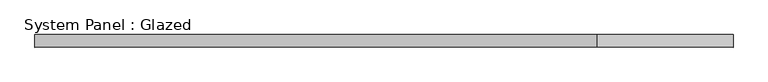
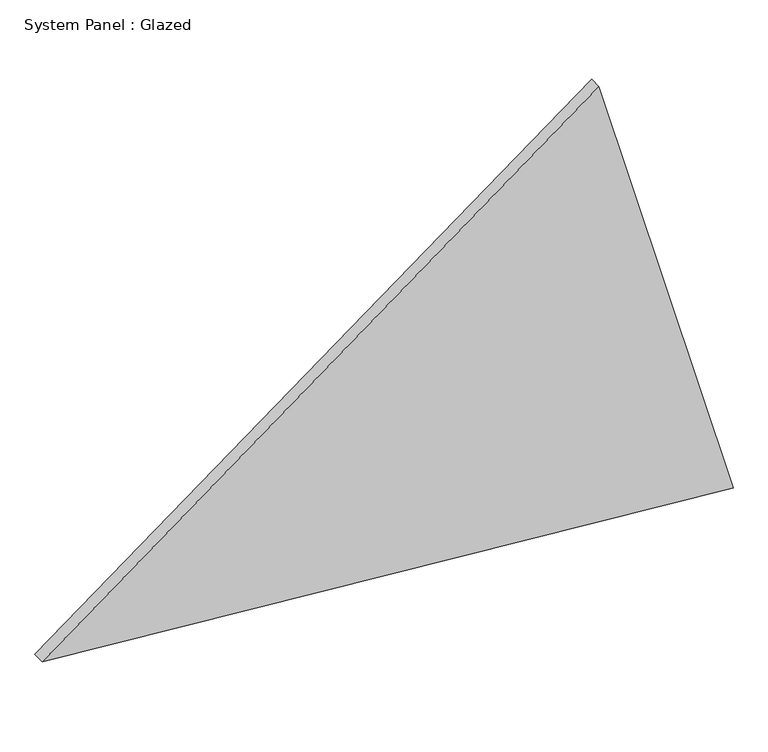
"""IFC4 building model written with IfcOpenShell, lengths in millimetres: plate geometry, System Panel : Glazed."""

from ifc_helpers import new_model, si_unit, frame, origin, place, context, project, spatial, polyline, outline, extrude, source, transform, mapped, element, save


def system_panel_glazed_a26e994d(model_context):
    return source(origin(), model_context, "Body", "SweptSolid", [
        extrude(outline(polyline([(117.8206661, -696.3766952), (0.0, 696.3766952), (951.2966006, 425.6578776), (117.8206661, -696.3766952)])), frame((0.0, -49.5, 0.0), z_axis=(0.0, 1.0, 0.0), x_axis=(0.0, 0.0, 1.0)), (0.0, 0.0, 1.0), 25.0),
    ])


if __name__ == "__main__":
    model = new_model("IFC4")
    model_context = context("Model", 3, world=origin())
    ifc_project = project(units=[si_unit("LENGTHUNIT", "METRE", prefix="MILLI")], contexts=[model_context])
    site = spatial("IfcSite", under=ifc_project)
    building = spatial("IfcBuilding", under=site)
    placement = place(None, origin())
    system_panel_glazed_shape = system_panel_glazed_a26e994d(model_context)
    element("IfcPlate", 1, ObjectType="System Panel : Glazed", at=placement, inside=building, context=model_context, shape_type="MappedRepresentation", body=[
        mapped(system_panel_glazed_shape, transform((0.0, 0.0, 0.0), x_axis=(1.0, 0.0, 0.0), y_axis=(0.0, 1.0, 0.0), z_axis=(0.0, 0.0, 1.0))),
    ])
    save(model, "model.ifc")
